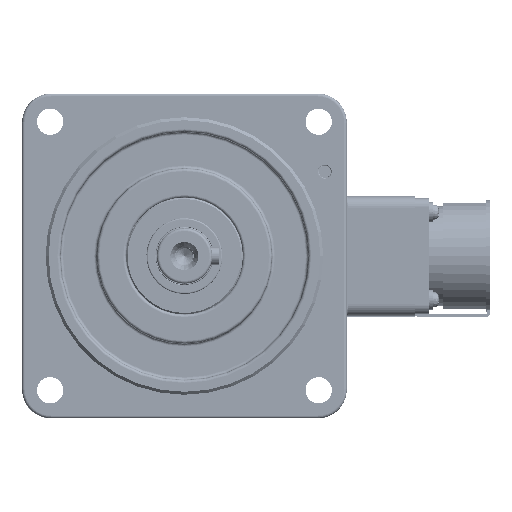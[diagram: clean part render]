
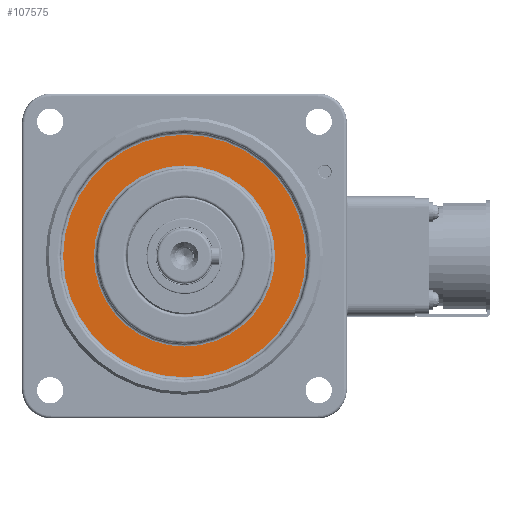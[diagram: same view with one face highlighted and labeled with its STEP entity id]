
A CAD part, left-side view. The second image highlights one B-rep face of the part: STEP entity #107575.
In plain terms, the highlighted planar face has unit normal (-1, 0, 0) as drawn and (1, 0, 0) by its records, which use the part's own axes.
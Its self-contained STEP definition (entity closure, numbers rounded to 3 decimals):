
#1173 = DIRECTION ( 'NONE',  ( -1., 0., 0. ) ) ;
#2234 = ORIENTED_EDGE ( 'NONE', *, *, #8548, .T. ) ;
#8548 = EDGE_CURVE ( 'NONE', #70273, #81206, #84902, .T. ) ;
#8912 = DIRECTION ( 'NONE',  ( 1., 0., 0. ) ) ;
#9905 = DIRECTION ( 'NONE',  ( 0., 0., 1. ) ) ;
#12464 = VERTEX_POINT ( 'NONE', #13482 ) ;
#13114 = AXIS2_PLACEMENT_3D ( 'NONE', #91903, #8912, #45860 ) ;
#13482 = CARTESIAN_POINT ( 'NONE',  ( 23.5, 0., 31. ) ) ;
#15056 = DIRECTION ( 'NONE',  ( 0., 0., 1. ) ) ;
#24149 = PLANE ( 'NONE',  #82974 ) ;
#24333 = DIRECTION ( 'NONE',  ( 0., 0., 1. ) ) ;
#29433 = CARTESIAN_POINT ( 'NONE',  ( 23.5, 0., -31. ) ) ;
#38094 = DIRECTION ( 'NONE',  ( 0., 0., 1. ) ) ;
#43205 = CIRCLE ( 'NONE', #110891, 31. ) ;
#43328 = ORIENTED_EDGE ( 'NONE', *, *, #105271, .T. ) ;
#44763 = CIRCLE ( 'NONE', #60236, 31. ) ;
#45860 = DIRECTION ( 'NONE',  ( 0., 0., 1. ) ) ;
#55105 = EDGE_LOOP ( 'NONE', ( #113875, #81567 ) ) ;
#55936 = CARTESIAN_POINT ( 'NONE',  ( 23.5, 0., 0. ) ) ;
#60236 = AXIS2_PLACEMENT_3D ( 'NONE', #84143, #1173, #38094 ) ;
#61091 = CARTESIAN_POINT ( 'NONE',  ( 23.5, 42.5, 0. ) ) ;
#64295 = CARTESIAN_POINT ( 'NONE',  ( 23.5, 0., -41.5 ) ) ;
#65354 = CIRCLE ( 'NONE', #13114, 41.5 ) ;
#70160 = FACE_BOUND ( 'NONE', #55105, .T. ) ;
#70273 = VERTEX_POINT ( 'NONE', #64295 ) ;
#70348 = CARTESIAN_POINT ( 'NONE',  ( 23.5, 0., 0. ) ) ;
#72886 = CARTESIAN_POINT ( 'NONE',  ( 23.5, 0., 41.5 ) ) ;
#78307 = EDGE_CURVE ( 'NONE', #12464, #119527, #44763, .T. ) ;
#81206 = VERTEX_POINT ( 'NONE', #72886 ) ;
#81567 = ORIENTED_EDGE ( 'NONE', *, *, #113201, .T. ) ;
#82974 = AXIS2_PLACEMENT_3D ( 'NONE', #61091, #98005, #15056 ) ;
#84143 = CARTESIAN_POINT ( 'NONE',  ( 23.5, 0., 0. ) ) ;
#84902 = CIRCLE ( 'NONE', #117730, 41.5 ) ;
#91903 = CARTESIAN_POINT ( 'NONE',  ( 23.5, 0., 0. ) ) ;
#92868 = DIRECTION ( 'NONE',  ( -1., 0., 0. ) ) ;
#95971 = EDGE_LOOP ( 'NONE', ( #43328, #2234 ) ) ;
#98005 = DIRECTION ( 'NONE',  ( -1., 0., 0. ) ) ;
#105271 = EDGE_CURVE ( 'NONE', #81206, #70273, #65354, .T. ) ;
#107085 = FACE_OUTER_BOUND ( 'NONE', #95971, .T. ) ;
#107273 = DIRECTION ( 'NONE',  ( 1., 0., 0. ) ) ;
#107575 = ADVANCED_FACE ( 'NONE', ( #70160, #107085 ), #24149, .F. ) ;
#110891 = AXIS2_PLACEMENT_3D ( 'NONE', #55936, #92868, #9905 ) ;
#113201 = EDGE_CURVE ( 'NONE', #119527, #12464, #43205, .T. ) ;
#113875 = ORIENTED_EDGE ( 'NONE', *, *, #78307, .T. ) ;
#117730 = AXIS2_PLACEMENT_3D ( 'NONE', #70348, #107273, #24333 ) ;
#119527 = VERTEX_POINT ( 'NONE', #29433 ) ;
